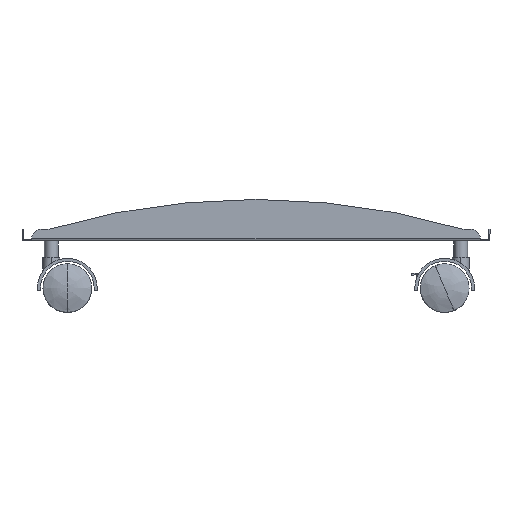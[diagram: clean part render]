
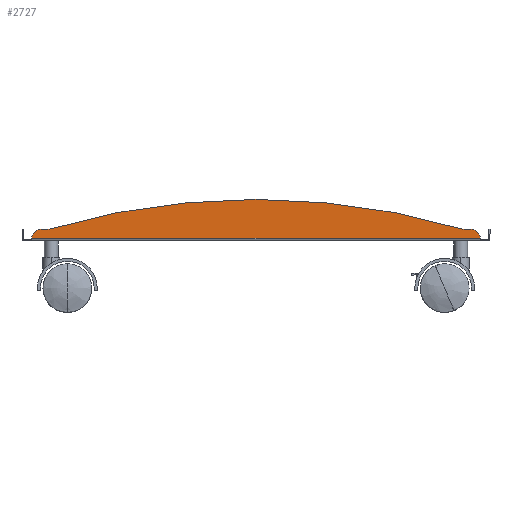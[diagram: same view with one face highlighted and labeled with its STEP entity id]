
A CAD part, front view. The second image highlights one B-rep face of the part: STEP entity #2727.
In plain terms, the highlighted planar face has unit normal (0, -1, 0).
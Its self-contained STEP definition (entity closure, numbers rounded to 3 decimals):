
#101 = DIRECTION ( 'NONE',  ( 0., 0., 1. ) ) ;
#115 = CARTESIAN_POINT ( 'NONE',  ( 0., -105., -713. ) ) ;
#333 = DIRECTION ( 'NONE',  ( -1., 0., 0. ) ) ;
#457 = VERTEX_POINT ( 'NONE', #4932 ) ;
#536 = AXIS2_PLACEMENT_3D ( 'NONE', #4778, #2387, #1610 ) ;
#630 = DIRECTION ( 'NONE',  ( 0., -1., 0. ) ) ;
#803 = VECTOR ( 'NONE', #1513, 1000. ) ;
#850 = CARTESIAN_POINT ( 'NONE',  ( -212.282, -105., 10.5 ) ) ;
#913 = DIRECTION ( 'NONE',  ( 0., -1., 0. ) ) ;
#929 = DIRECTION ( 'NONE',  ( 0., -1., 0. ) ) ;
#937 = EDGE_CURVE ( 'NONE', #1322, #974, #3191, .T. ) ;
#957 = ORIENTED_EDGE ( 'NONE', *, *, #1695, .T. ) ;
#974 = VERTEX_POINT ( 'NONE', #2001 ) ;
#1029 = ORIENTED_EDGE ( 'NONE', *, *, #4120, .T. ) ;
#1242 = EDGE_CURVE ( 'NONE', #1822, #1482, #2359, .T. ) ;
#1258 = DIRECTION ( 'NONE',  ( 0., 0., 1. ) ) ;
#1280 = DIRECTION ( 'NONE',  ( 0., 0., 1. ) ) ;
#1322 = VERTEX_POINT ( 'NONE', #3762 ) ;
#1346 = ORIENTED_EDGE ( 'NONE', *, *, #3878, .F. ) ;
#1347 = EDGE_CURVE ( 'NONE', #1482, #974, #2630, .T. ) ;
#1391 = AXIS2_PLACEMENT_3D ( 'NONE', #4730, #3130, #1258 ) ;
#1439 = CARTESIAN_POINT ( 'NONE',  ( 0., -105., -713. ) ) ;
#1482 = VERTEX_POINT ( 'NONE', #850 ) ;
#1513 = DIRECTION ( 'NONE',  ( 1., 0., 0. ) ) ;
#1610 = DIRECTION ( 'NONE',  ( 0., 0., 1. ) ) ;
#1695 = EDGE_CURVE ( 'NONE', #3582, #1822, #3994, .T. ) ;
#1822 = VERTEX_POINT ( 'NONE', #4189 ) ;
#1860 = DIRECTION ( 'NONE',  ( -1., 0., 0. ) ) ;
#1899 = LINE ( 'NONE', #3460, #803 ) ;
#1921 = VECTOR ( 'NONE', #1860, 1000. ) ;
#1948 = EDGE_CURVE ( 'NONE', #3582, #2725, #1899, .T. ) ;
#2001 = CARTESIAN_POINT ( 'NONE',  ( -220., -105., 10.5 ) ) ;
#2157 = EDGE_LOOP ( 'NONE', ( #957, #3193, #2350, #2172, #1346, #1029, #2258 ) ) ;
#2172 = ORIENTED_EDGE ( 'NONE', *, *, #937, .F. ) ;
#2258 = ORIENTED_EDGE ( 'NONE', *, *, #1948, .F. ) ;
#2259 = CARTESIAN_POINT ( 'NONE',  ( 0., -105., 10.5 ) ) ;
#2295 = AXIS2_PLACEMENT_3D ( 'NONE', #115, #929, #1280 ) ;
#2350 = ORIENTED_EDGE ( 'NONE', *, *, #1347, .T. ) ;
#2359 = CIRCLE ( 'NONE', #3170, 754. ) ;
#2387 = DIRECTION ( 'NONE',  ( 0., 1., 0. ) ) ;
#2630 = LINE ( 'NONE', #2259, #2768 ) ;
#2725 = VERTEX_POINT ( 'NONE', #3623 ) ;
#2727 = ADVANCED_FACE ( 'NONE', ( #3223 ), #3532, .F. ) ;
#2768 = VECTOR ( 'NONE', #333, 1000. ) ;
#2815 = CARTESIAN_POINT ( 'NONE',  ( 212.282, -105., 10.5 ) ) ;
#3130 = DIRECTION ( 'NONE',  ( 0., 1., 0. ) ) ;
#3170 = AXIS2_PLACEMENT_3D ( 'NONE', #1439, #630, #4937 ) ;
#3191 = CIRCLE ( 'NONE', #1391, 10. ) ;
#3193 = ORIENTED_EDGE ( 'NONE', *, *, #1242, .T. ) ;
#3223 = FACE_OUTER_BOUND ( 'NONE', #2157, .T. ) ;
#3369 = LINE ( 'NONE', #3452, #1921 ) ;
#3389 = AXIS2_PLACEMENT_3D ( 'NONE', #3966, #913, #101 ) ;
#3452 = CARTESIAN_POINT ( 'NONE',  ( -230., -105., 1. ) ) ;
#3460 = CARTESIAN_POINT ( 'NONE',  ( 0., -105., 10.5 ) ) ;
#3532 = PLANE ( 'NONE',  #536 ) ;
#3582 = VERTEX_POINT ( 'NONE', #2815 ) ;
#3623 = CARTESIAN_POINT ( 'NONE',  ( 220., -105., 10.5 ) ) ;
#3762 = CARTESIAN_POINT ( 'NONE',  ( -229.987, -105., 1. ) ) ;
#3878 = EDGE_CURVE ( 'NONE', #457, #1322, #3369, .T. ) ;
#3966 = CARTESIAN_POINT ( 'NONE',  ( 220., -105., 0.5 ) ) ;
#3994 = CIRCLE ( 'NONE', #2295, 754. ) ;
#4120 = EDGE_CURVE ( 'NONE', #457, #2725, #4612, .T. ) ;
#4189 = CARTESIAN_POINT ( 'NONE',  ( 0., -105., 41. ) ) ;
#4612 = CIRCLE ( 'NONE', #3389, 10. ) ;
#4730 = CARTESIAN_POINT ( 'NONE',  ( -220., -105., 0.5 ) ) ;
#4778 = CARTESIAN_POINT ( 'NONE',  ( 0., -105., 0. ) ) ;
#4932 = CARTESIAN_POINT ( 'NONE',  ( 229.987, -105., 1. ) ) ;
#4937 = DIRECTION ( 'NONE',  ( 0., 0., 1. ) ) ;
